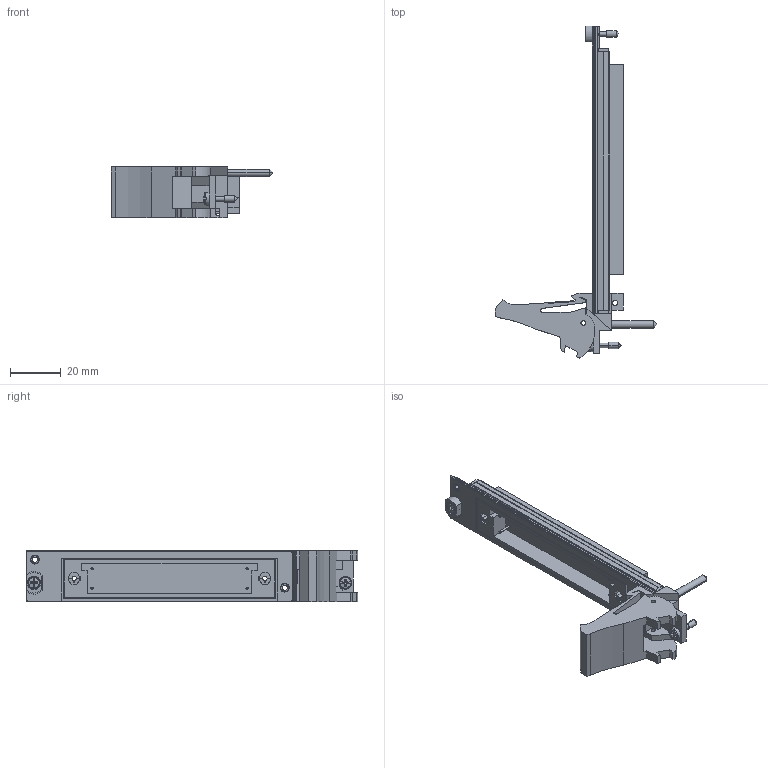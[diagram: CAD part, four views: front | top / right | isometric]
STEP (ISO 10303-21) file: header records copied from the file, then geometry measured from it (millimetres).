
FILE_DESCRIPTION((''),'2;1');
FILE_NAME('TRASKE','2009-09-01T',('jjorden'),(''),'PRO/ENGINEER BY PARAMETRIC TECHNOLOGY CORPORATION, 2006080','PRO/ENGINEER BY PARAMETRIC TECHNOLOGY CORPORATION, 2006080','');
FILE_SCHEMA(('CONFIG_CONTROL_DESIGN'));
Length unit declared in the file: inch
Products named in the file (1): TRASKE
Bounding box: 63.53 x 130.5 x 20.31 mm (x, y, z)
Volume: 20783.3 mm3; surface area: 19735.6 mm2
Topology: 3 solids, 3 shells, 430 faces, 1146 edges, 746 vertices
Faces by surface type: plane 291, cylinder 117, cone 14, sphere 4, torus 4
Entity records: 13506 total; most frequent: CARTESIAN_POINT 2491, ORIENTED_EDGE 2284, DIRECTION 2269, EDGE_CURVE 1142, VECTOR 835, LINE 835, VERTEX_POINT 746, AXIS2_PLACEMENT_3D 717
